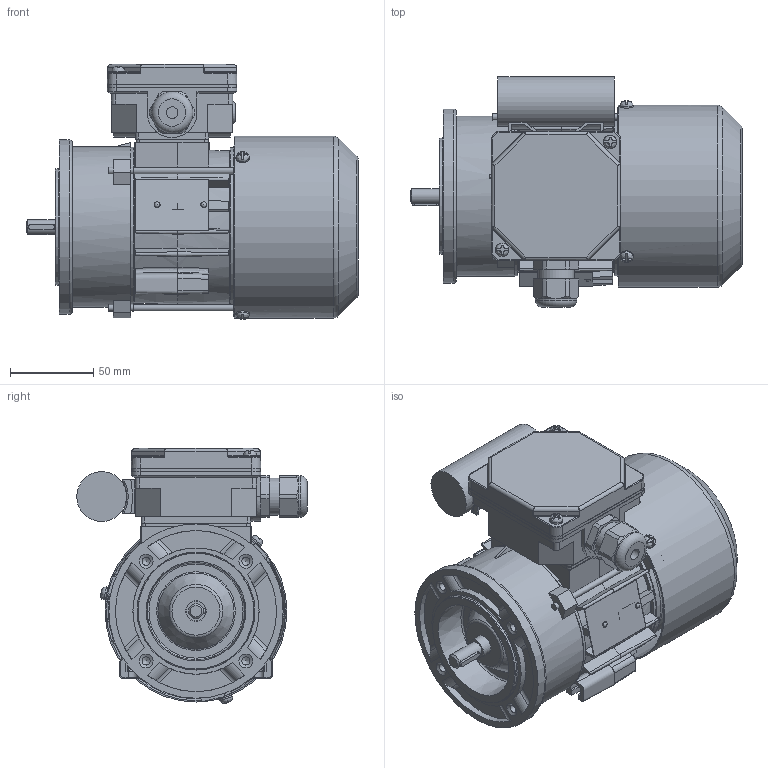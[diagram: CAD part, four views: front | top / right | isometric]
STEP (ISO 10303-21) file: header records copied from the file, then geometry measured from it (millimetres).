
FILE_DESCRIPTION( ( 'Unknown' ), '1' );
FILE_NAME( 'G:/Poczta Tk-1/STP/w.m.56/SEh56/SE(M)Kh56-C1.stp', 'Unknown', ( 'K. Szlosek' ), ( 'BESEL S.A.' ), 'PSStep 17.0.49', 'Unknown', ' ' );
FILE_SCHEMA( ( 'AUTOMOTIVE_DESIGN { 1 0 10303 214 1 1 1 1 }' ) );
Length unit declared in the file: millimetre
Products named in the file (31): Assem1; K4-2320 Uszczelka nr 1 Sh71,80; K3-2193 Tarcza łożyskowa P Sg56-2..; K2-0860 Pokrywka skrzynki zaciskowej; Wpust A3x3x16; K3-2977 Osłona przewietrznika Sg56; K4-2820 Uszczelka nr 2 Sh71,80; Wkręt samogwintujący M4x8; Wkręt samogwintujący M4x16; K2-0879 Przewietrznik Sg56; Nitokołek A 2x6; K3-9440 Podstawa  skrzynki zaciskowej SEhR71-D; K4-0898 Tulejka uszczelniająca; K3-1974 Uchwyt kondensatora (mały); Kondensator bb 8uF; K3-9987 kadłub ze stojanem Sh56-C; K3-9990 wał Sh56-C; K1-0529 Tarcza kołnierzowa B14_1 SKg56-..1; Śruba ściągająca E_M4x85; Tabliczka znamionowa 32x44; Dławnica M20x1,5; Łożysko 6201
Assembly tree (46 placements, depth 2):
  Assem1
    K4-2320 Uszczelka nr 1 Sh71,80
    K3-2193 Tarcza łożyskowa P Sg56-2..
    K2-0860 Pokrywka skrzynki zaciskowej
    Wpust A3x3x16
    K3-2977 Osłona przewietrznika Sg56
    K4-2820 Uszczelka nr 2 Sh71,80
    Wkręt samogwintujący M4x8  x3
    Wkręt samogwintujący M4x16  x2
    K2-0879 Przewietrznik Sg56
    Nitokołek A 2x6  x2
    K3-9440 Podstawa  skrzynki zaciskowej SEhR71-D
    K4-0898 Tulejka uszczelniająca
    K3-1974 Uchwyt kondensatora (mały)
    Kondensator bb 8uF
    K3-9987 kadłub ze stojanem Sh56-C
    K3-9990 wał Sh56-C
    K1-0529 Tarcza kołnierzowa B14_1 SKg56-..1
    Śruba ściągająca E_M4x85  x3
    Tabliczka znamionowa 32x44
    Dławnica M20x1,5
    Łożysko 6201  x2
    Łożysko 6201  x2
    Łożysko 6201  x2
    Łożysko 6201  x2
    Łożysko 6201  x2
    Łożysko 6201  x2
    Łożysko 6201  x2
    Łożysko 6201  x2
    Łożysko 6201  x2
    Łożysko 6201  x2
Bounding box: 200 x 138.82 x 153.72 mm (x, y, z)
Volume: 494772.1 mm3; surface area: 318975.1 mm2
Topology: 46 solids, 62 shells, 1797 faces, 4823 edges, 3105 vertices
Faces by surface type: plane 920, cylinder 529, torus 128, cone 108, bspline 78, sphere 34
Full cylindrical faces by diameter (mm): 2 x2, 2.4 x2, 3 x1, 3.242 x3, 3.5 x2, 3.7 x10, 4 x8, 4.5 x4, 4.6 x1, 4.8 x4, 4.917 x4, 5 x4, 6.5 x1, 7 x4, 8 x6, 9 x1, 10 x2, 10.9 x1, 11 x1, 11.5 x1, 11.8 x2, 12 x4, 12.4 x2, 15.5 x1, 16 x1, 16.1 x1, 17 x2, 18.38 x1, 18.5 x1, 18.52 x4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
Entity records: 74952 total; most frequent: CARTESIAN_POINT 22019, DIRECTION 8327, ORIENTED_EDGE 8220, EDGE_CURVE 4110, AXIS2_PLACEMENT_3D 3098, VERTEX_POINT 2788, LINE 2131, VECTOR 2131
